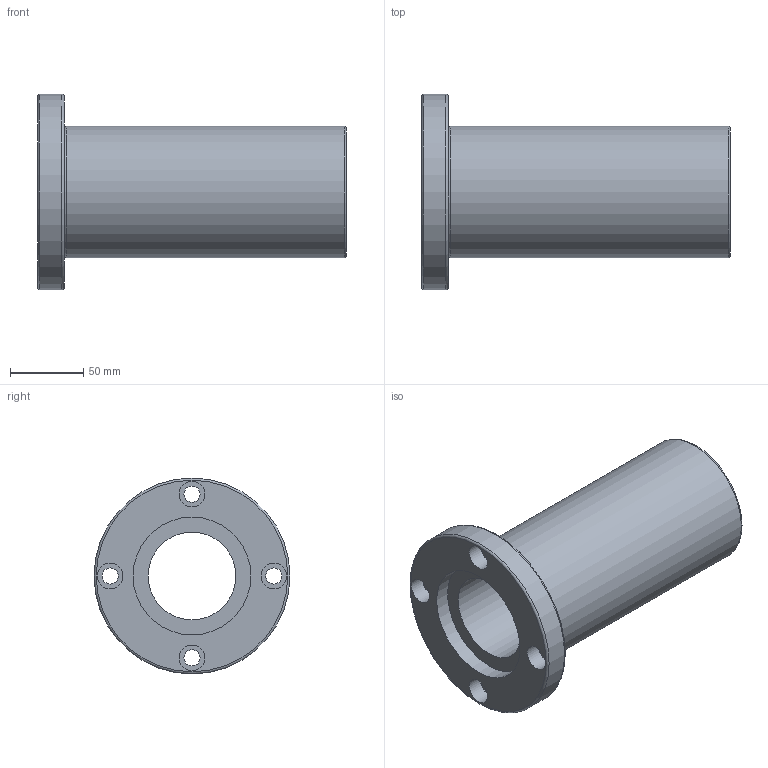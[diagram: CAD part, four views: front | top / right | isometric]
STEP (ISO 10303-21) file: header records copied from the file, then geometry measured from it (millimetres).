
FILE_DESCRIPTION( ( 'Unknown' ), '1' );
FILE_NAME( 'D:/累诀/己绕皋墨飘肺葱胶/11-04-06_档搁累己/01_府聪绢何教/LMF L/LMF 60L.stp', 'Unknown', ( 'Unknown' ), ( 'Unknown' ), 'PSStep 11.0', 'Unknown', ' ' );
FILE_SCHEMA( ( 'AUTOMOTIVE_DESIGN { 1 0 10303 214 1 1 1 1 }' ) );
Length unit declared in the file: millimetre
Products named in the file (1): 1
Bounding box: 211 x 134 x 134 mm (x, y, z)
Volume: 823194.6 mm3; surface area: 127994.8 mm2
Topology: 1 solids, 1 shells, 27 faces, 52 edges, 35 vertices
Faces by surface type: cylinder 14, plane 10, torus 3
Full cylindrical faces by diameter (mm): 11 x4, 17.5 x4, 60 x1, 80.6 x2, 89 x1, 90 x1, 134 x1
Entity records: 836 total; most frequent: DIRECTION 118, CARTESIAN_POINT 90, EDGE_LOOP 62, ORIENTED_EDGE 62, AXIS2_PLACEMENT_3D 59, FACE_OUTER_BOUND 44, EDGE_CURVE 31, VERTEX_POINT 31
